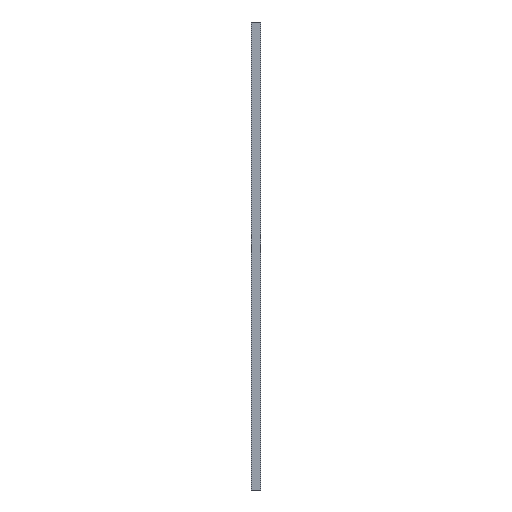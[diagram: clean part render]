
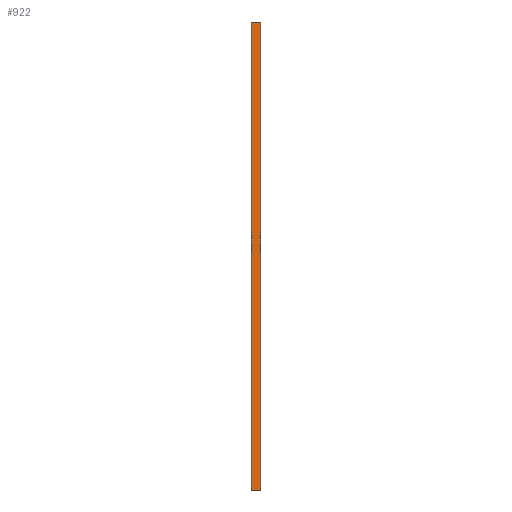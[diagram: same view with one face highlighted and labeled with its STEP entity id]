
A CAD part, left-side view. The second image highlights one B-rep face of the part: STEP entity #922.
In plain terms, the highlighted planar face has unit normal (-1, 0, 0).
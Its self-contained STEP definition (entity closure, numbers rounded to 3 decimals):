
#275 = DIRECTION ( 'NONE',  ( 0., -1., 0. ) ) ;
#321 = ORIENTED_EDGE ( 'NONE', *, *, #9800, .T. ) ;
#467 = VECTOR ( 'NONE', #2906, 1000. ) ;
#633 = EDGE_CURVE ( 'NONE', #6311, #4219, #1471, .T. ) ;
#824 = CARTESIAN_POINT ( 'NONE',  ( 0., 0., -1500. ) ) ;
#922 = ADVANCED_FACE ( 'NONE', ( #8368 ), #8152, .F. ) ;
#1265 = DIRECTION ( 'NONE',  ( 0., 0., -1. ) ) ;
#1471 = LINE ( 'NONE', #5258, #2455 ) ;
#1616 = EDGE_LOOP ( 'NONE', ( #3753, #8826, #9108, #321 ) ) ;
#2455 = VECTOR ( 'NONE', #4585, 1000. ) ;
#2906 = DIRECTION ( 'NONE',  ( 0., 0., -1. ) ) ;
#3420 = CARTESIAN_POINT ( 'NONE',  ( 0., 58., 1500. ) ) ;
#3424 = DIRECTION ( 'NONE',  ( 0., 0., -1. ) ) ;
#3753 = ORIENTED_EDGE ( 'NONE', *, *, #5226, .T. ) ;
#4130 = LINE ( 'NONE', #824, #6417 ) ;
#4219 = VERTEX_POINT ( 'NONE', #4739 ) ;
#4585 = DIRECTION ( 'NONE',  ( 0., -1., 0. ) ) ;
#4739 = CARTESIAN_POINT ( 'NONE',  ( 0., 0., 1500. ) ) ;
#5226 = EDGE_CURVE ( 'NONE', #9791, #5717, #4130, .T. ) ;
#5258 = CARTESIAN_POINT ( 'NONE',  ( 0., 0., 1500. ) ) ;
#5544 = CARTESIAN_POINT ( 'NONE',  ( 0., 58., 1500. ) ) ;
#5640 = VECTOR ( 'NONE', #1265, 1000. ) ;
#5717 = VERTEX_POINT ( 'NONE', #6278 ) ;
#5764 = CARTESIAN_POINT ( 'NONE',  ( 0., 0., 1500. ) ) ;
#6197 = AXIS2_PLACEMENT_3D ( 'NONE', #5764, #8202, #3424 ) ;
#6278 = CARTESIAN_POINT ( 'NONE',  ( 0., 0., -1500. ) ) ;
#6311 = VERTEX_POINT ( 'NONE', #3420 ) ;
#6417 = VECTOR ( 'NONE', #275, 1000. ) ;
#7314 = CARTESIAN_POINT ( 'NONE',  ( 0., 58., -1500. ) ) ;
#8152 = PLANE ( 'NONE',  #6197 ) ;
#8202 = DIRECTION ( 'NONE',  ( 1., 0., 0. ) ) ;
#8368 = FACE_OUTER_BOUND ( 'NONE', #1616, .T. ) ;
#8826 = ORIENTED_EDGE ( 'NONE', *, *, #8906, .F. ) ;
#8890 = CARTESIAN_POINT ( 'NONE',  ( 0., 0., 1500. ) ) ;
#8906 = EDGE_CURVE ( 'NONE', #4219, #5717, #9088, .T. ) ;
#9088 = LINE ( 'NONE', #8890, #5640 ) ;
#9108 = ORIENTED_EDGE ( 'NONE', *, *, #633, .F. ) ;
#9647 = LINE ( 'NONE', #5544, #467 ) ;
#9791 = VERTEX_POINT ( 'NONE', #7314 ) ;
#9800 = EDGE_CURVE ( 'NONE', #6311, #9791, #9647, .T. ) ;
